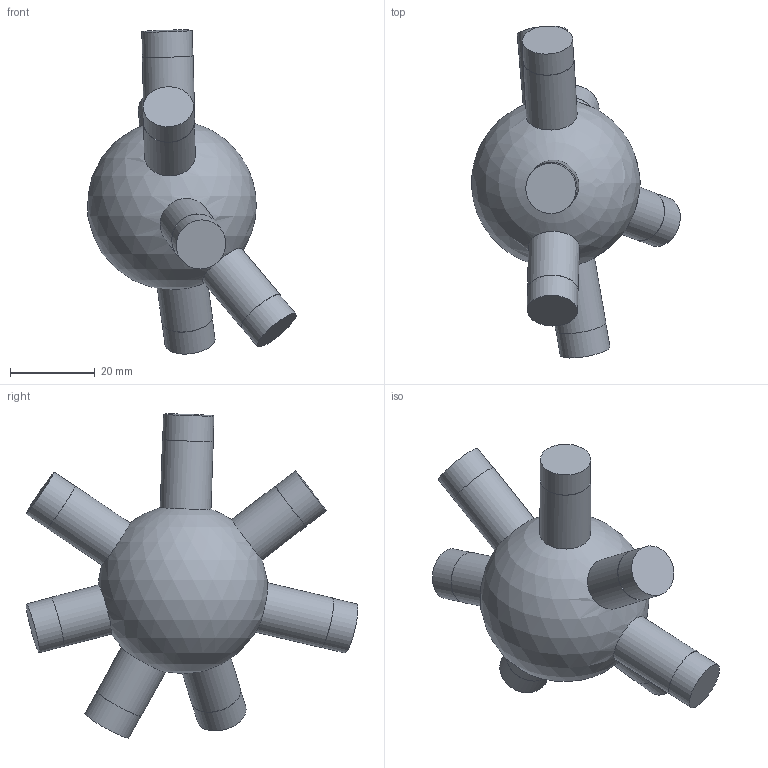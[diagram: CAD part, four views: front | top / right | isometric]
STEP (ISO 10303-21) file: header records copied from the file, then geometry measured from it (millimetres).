
FILE_DESCRIPTION(('Open CASCADE Model'),'2;1');
FILE_NAME('Open CASCADE Shape Model','2026-10-21T12:47:57',('Author'),( 'Open CASCADE'),'Open CASCADE STEP processor 7.9','Open CASCADE 7.9' ,'Unknown');
FILE_SCHEMA(('AUTOMOTIVE_DESIGN { 1 0 10303 214 1 1 1 1 }'));
Length unit declared in the file: millimetre
Products named in the file (1): Open CASCADE STEP translator 7.9 136
Bounding box: 49.27 x 78.39 x 76.59 mm (x, y, z)
Volume: 49048.8 mm3; surface area: 10323 mm2
Topology: 1 solids, 1 shells, 29 faces, 48 edges, 32 vertices
Faces by surface type: cylinder 14, plane 14, sphere 1
Full cylindrical faces by diameter (mm): 11.9 x7, 12 x7
Entity records: 1737 total; most frequent: CARTESIAN_POINT 649, DIRECTION 224, ORIENTED_EDGE 94, PCURVE 94, DEFINITIONAL_REPRESENTATION 94, LINE 77, VECTOR 77, AXIS2_PLACEMENT_3D 63
